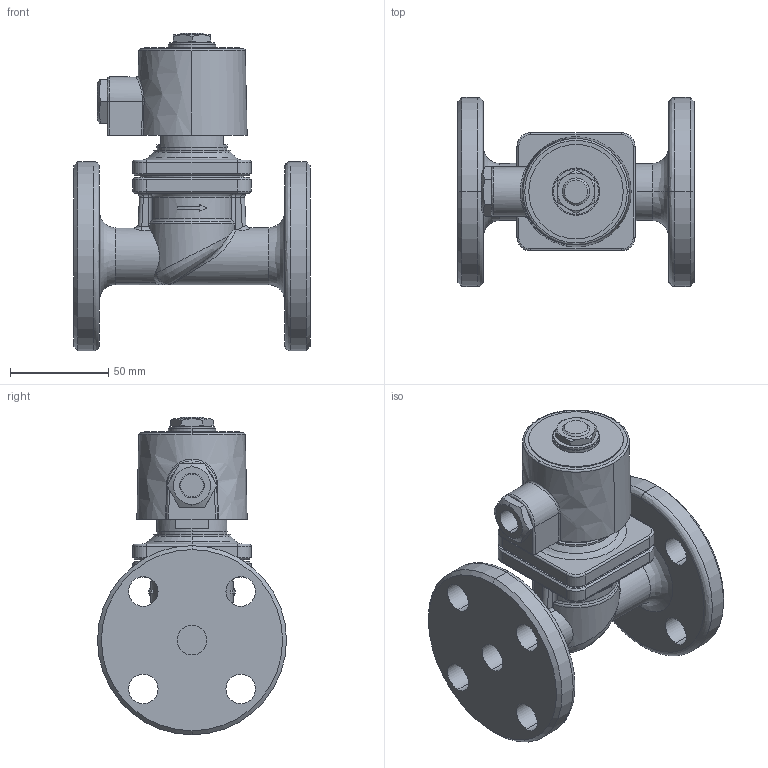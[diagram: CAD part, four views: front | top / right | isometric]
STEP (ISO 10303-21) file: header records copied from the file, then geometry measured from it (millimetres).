
FILE_DESCRIPTION( (''), '2;1');
FILE_NAME ('PC1027.7416.DP-100F　15A_28373.stp','2025-07-28T18:10:45',(''),(''),'spGate 19.8.4 (****-****-****-****)','','');
FILE_SCHEMA (('AUTOMOTIVE_DESIGN'));
Length unit declared in the file: millimetre
Products named in the file (6): Assembly; DP-100F 弁箱 15A; ふた　10-15A; パイプP 10-25A; ACコイル10A; ACコイル10A部品プレート
Assembly tree (5 placements, depth 2):
  Assembly
    DP-100F 弁箱 15A
    ふた　10-15A
    パイプP 10-25A
    ACコイル10A
    ACコイル10A部品プレート
Bounding box: 120 x 96 x 161.2 mm (x, y, z)
Volume: 469654.4 mm3; surface area: 92962.8 mm2
Topology: 5 solids, 5 shells, 408 faces, 961 edges, 560 vertices
Faces by surface type: bspline 150, cylinder 136, plane 106, sphere 16
Entity records: 23356 total; most frequent: CARTESIAN_POINT 7352, ORIENTED_EDGE 1868, DIRECTION 1522, COLOUR_RGB 1347, PRESENTATION_STYLE_ASSIGNMENT 1347, STYLED_ITEM 1347, EDGE_CURVE 934, DRAUGHTING_PRE_DEFINED_CURVE_FONT 934
